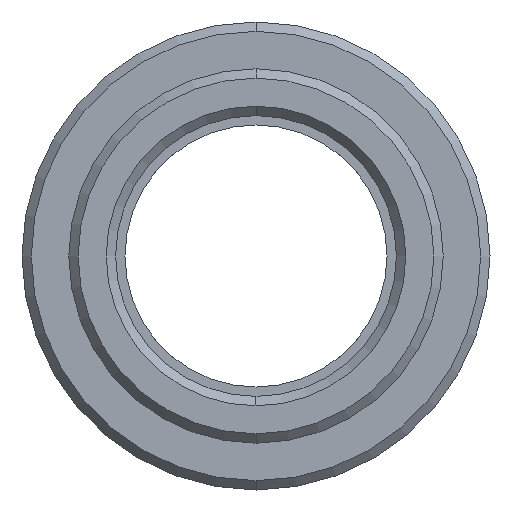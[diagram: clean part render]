
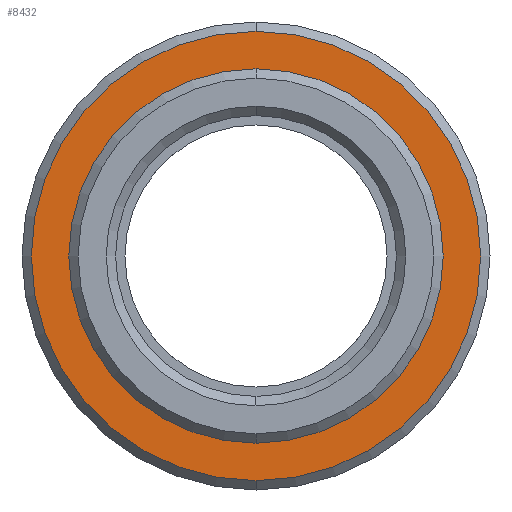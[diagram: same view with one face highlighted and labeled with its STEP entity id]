
A CAD part, left-side view. The second image highlights one B-rep face of the part: STEP entity #8432.
In plain terms, the highlighted planar face has unit normal (-1, 0, 0).
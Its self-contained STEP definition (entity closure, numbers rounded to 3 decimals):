
#3264=CARTESIAN_POINT('',(0.,0.,0.));
#3265=DIRECTION('',(1.,0.,0.));
#3266=DIRECTION('',(0.,0.,1.));
#3267=AXIS2_PLACEMENT_3D('',#3264,#3265,#3266);
#3269=CARTESIAN_POINT('',(0.,0.,0.));
#3270=DIRECTION('',(-1.,0.,0.));
#3271=DIRECTION('',(0.,0.,1.));
#3272=AXIS2_PLACEMENT_3D('',#3269,#3270,#3271);
#3274=CARTESIAN_POINT('',(0.,0.,0.));
#3275=DIRECTION('',(1.,0.,0.));
#3276=DIRECTION('',(0.,0.,-1.));
#3277=AXIS2_PLACEMENT_3D('',#3274,#3275,#3276);
#3279=CARTESIAN_POINT('',(0.,0.,0.));
#3280=DIRECTION('',(1.,0.,0.));
#3281=DIRECTION('',(0.,0.,1.));
#3282=AXIS2_PLACEMENT_3D('',#3279,#3280,#3281);
#6714=CARTESIAN_POINT('',(0.,0.,-12.));
#6715=CARTESIAN_POINT('',(0.,0.,12.));
#6716=VERTEX_POINT('',#6714);
#6717=VERTEX_POINT('',#6715);
#6938=CARTESIAN_POINT('',(0.,0.,10.));
#6939=CARTESIAN_POINT('',(0.,0.,-10.));
#6940=VERTEX_POINT('',#6938);
#6941=VERTEX_POINT('',#6939);
#8417=CARTESIAN_POINT('',(0.,0.,0.));
#8418=DIRECTION('',(1.,0.,0.));
#8419=DIRECTION('',(0.,0.,1.));
#8420=AXIS2_PLACEMENT_3D('',#8417,#8418,#8419);
#8421=PLANE('',#8420);
#8423=ORIENTED_EDGE('',*,*,#8422,.T.);
#8425=ORIENTED_EDGE('',*,*,#8424,.T.);
#8426=EDGE_LOOP('',(#8423,#8425));
#8427=FACE_OUTER_BOUND('',#8426,.F.);
#8428=ORIENTED_EDGE('',*,*,#8399,.F.);
#8429=ORIENTED_EDGE('',*,*,#8384,.T.);
#8430=EDGE_LOOP('',(#8428,#8429));
#8431=FACE_BOUND('',#8430,.F.);
#8432=ADVANCED_FACE('',(#8427,#8431),#8421,.F.);
#3268=CIRCLE('',#3267,10.);
#3273=CIRCLE('',#3272,10.);
#3278=CIRCLE('',#3277,12.);
#3283=CIRCLE('',#3282,12.);
#8384=EDGE_CURVE('',#6940,#6941,#3273,.T.);
#8399=EDGE_CURVE('',#6940,#6941,#3268,.T.);
#8422=EDGE_CURVE('',#6716,#6717,#3278,.T.);
#8424=EDGE_CURVE('',#6717,#6716,#3283,.T.);
